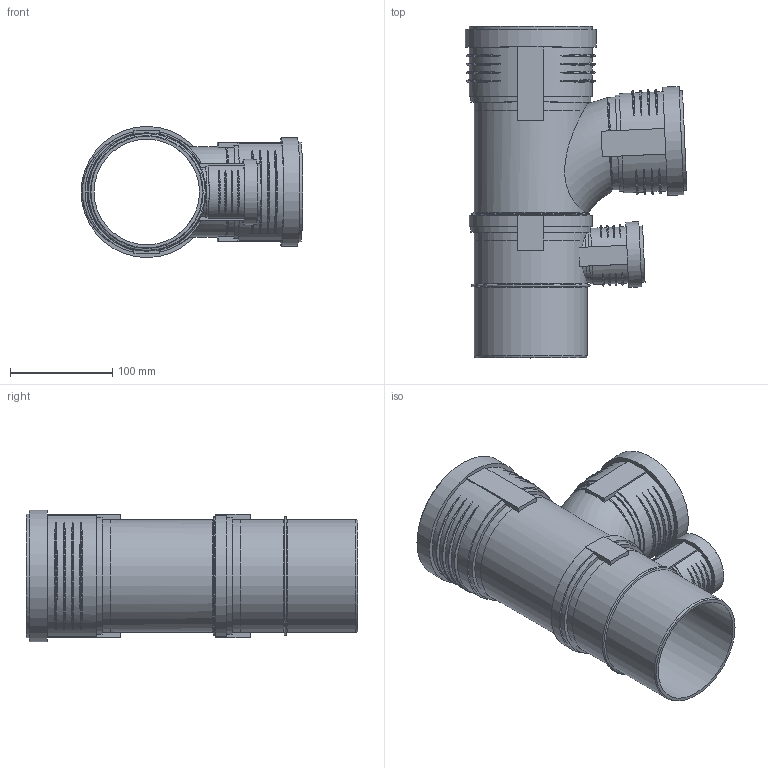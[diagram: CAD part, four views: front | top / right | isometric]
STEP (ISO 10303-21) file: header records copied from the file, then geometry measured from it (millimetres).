
FILE_DESCRIPTION(/* description */ (''),/* implementation_level */ '2;1');
FILE_NAME(/* name */ 'Z:\Geberit\Export\Export18\Kombiabzweig PP-MD_Iassembly\stp\390556.stp',/* time_stamp */ '2014-08-26T20:07:34+02:00',/* author */ ('ML'),/* organization */ (''),/* preprocessor_version */ 'ST-DEVELOPER v15.2',/* originating_system */ 'Autodesk Inventor 2014',/* authorisation */ '');
FILE_SCHEMA (('AUTOMOTIVE_DESIGN { 1 0 10303 214 3 1 1 }'));
Length unit declared in the file: millimetre
Products named in the file (12): 861360; 861401; 861404; 861739; 861362; 861403; 861404_1; 861742; 861741; 390556
Bounding box: 216.45 x 324 x 128.1 mm (x, y, z)
Volume: 586447.8 mm3; surface area: 363298.3 mm2
Topology: 6 solids, 6 shells, 220 faces, 539 edges, 370 vertices
Faces by surface type: torus 79, plane 77, cylinder 58, cone 6
Full cylindrical faces by diameter (mm): 46.15 x2, 50.15 x2, 51 x2, 55 x1, 59.7 x1, 63.7 x1, 84 x1, 84.2 x1, 90.2 x2, 91.2 x2, 97.2 x1, 99.8 x1, 103 x2, 103.2 x2, 105.8 x1, 110.2 x6, 113.3 x3, 120.3 x1, 121.1 x1, 128.1 x1
Entity records: 8859 total; most frequent: CARTESIAN_POINT 3604, DIRECTION 974, ORIENTED_EDGE 946, EDGE_CURVE 473, AXIS2_PLACEMENT_3D 415, VERTEX_POINT 353, EDGE_LOOP 324, STYLED_ITEM 224
